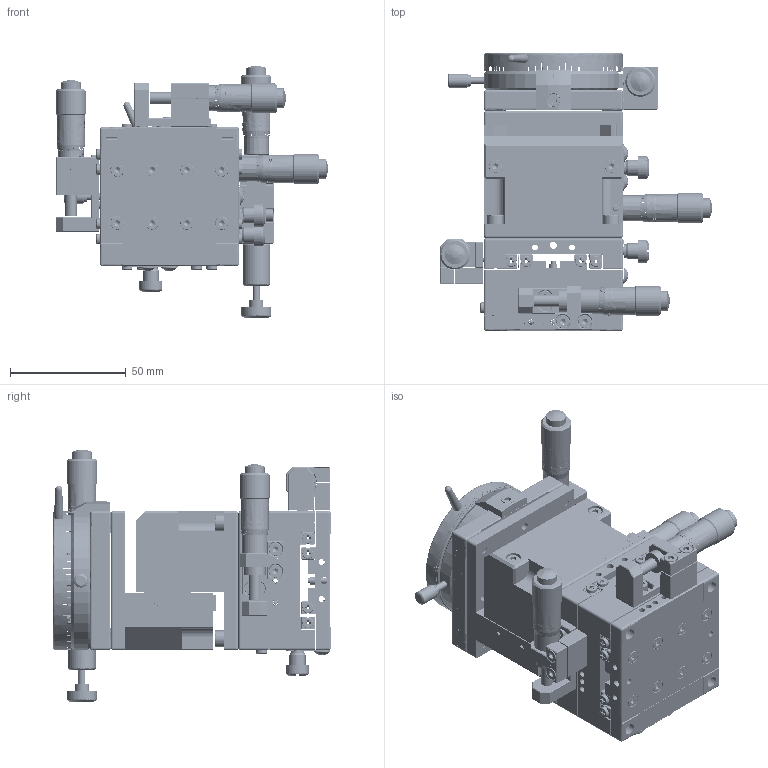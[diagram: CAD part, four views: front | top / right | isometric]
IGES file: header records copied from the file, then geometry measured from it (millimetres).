
Start section: SolidWorks IGES file using analytic representation for surfaces
Bounding box: 117.5 x 120 x 109 mm (x, y, z)
Surface area: 103483 mm2 (no closed solid volume)
Topology: 0 solids, 0 shells, 2598 faces, 49024 edges, 48936 vertices
Faces by surface type: bspline 1684, revolution 914
